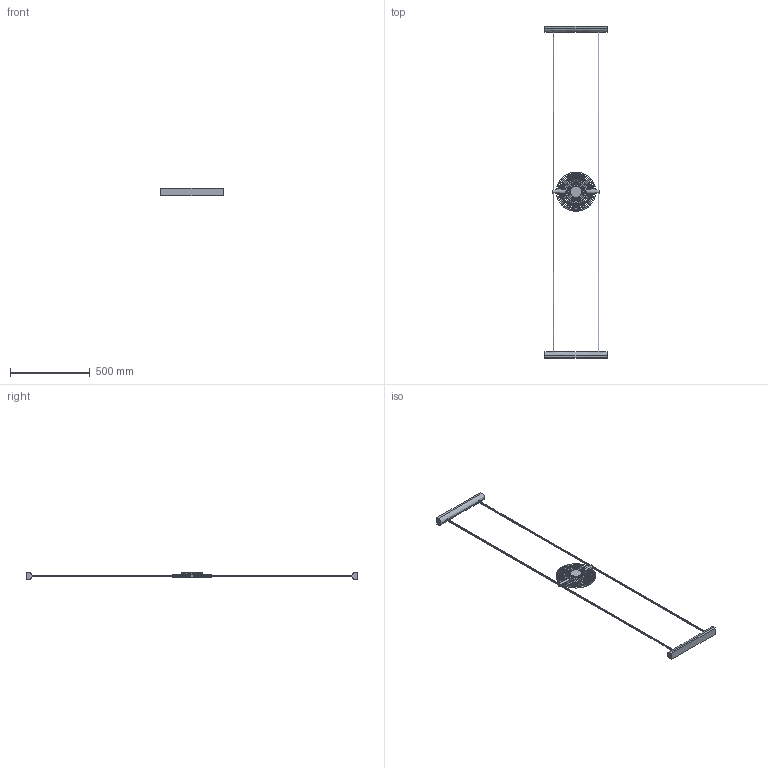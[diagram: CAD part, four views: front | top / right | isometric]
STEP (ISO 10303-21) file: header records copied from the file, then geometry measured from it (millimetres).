
FILE_DESCRIPTION(/* description */ (''),/* implementation_level */ '2;1');
FILE_NAME(/* name */ 'cinienils_new_tensoled',/* time_stamp */ '2016-06-21T14:20:33+02:00',/* author */ (''),/* organization */ (''),/* preprocessor_version */ 'ST-DEVELOPER v15',/* originating_system */ '',/* authorisation */ '');
FILE_SCHEMA (('AUTOMOTIVE_DESIGN'));
Length unit declared in the file: millimetre
Products named in the file (4): Document; TESATA_280; CINIENILS_NEW_TENSOLED; Blocco 01
Assembly tree (3 placements, depth 3):
  Document
    TESATA_280
    CINIENILS_NEW_TENSOLED
      Blocco 01
Bounding box: 388 x 2076 x 48 mm (x, y, z)
Volume: 1989163.1 mm3; surface area: 398390.4 mm2
Topology: 10 solids, 10 shells, 580 faces, 1686 edges, 1128 vertices
Faces by surface type: plane 302, bspline 278
Entity records: 22634 total; most frequent: CARTESIAN_POINT 12465, ORIENTED_EDGE 3372, EDGE_CURVE 1686, B_SPLINE_CURVE_WITH_KNOTS 1192, VERTEX_POINT 1128, EDGE_LOOP 584, ADVANCED_FACE 580, FACE_OUTER_BOUND 580
